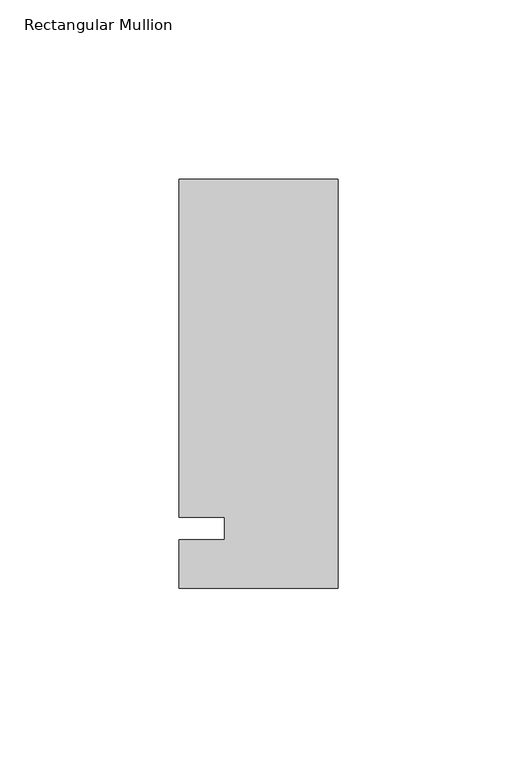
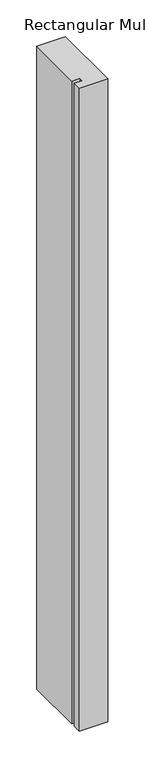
"""IFC4 building model written with IfcOpenShell, lengths in millimetres: member geometry, Rectangular Mullion : Kawneer-TRIFAB_VG_450_BACK_SB_Head."""

from ifc_helpers import new_model, si_unit, frame, origin, place, context, project, spatial, polyline, outline, extrude, source, transform, mapped, element, save


def rectangular_mullion_5dae8c0a(model_context):
    return source(origin(), model_context, "Body", "SweptSolid", [
        extrude(outline(polyline([(-44.45, -16.66875), (-44.45, -3.175), (-31.7482296, -3.175), (-31.7482296, 3.175), (-44.45, 3.175), (-44.45, 97.63125), (0.0, 97.63125), (0.0, -16.66875), (-44.45, -16.66875)])), frame((0.0, 0.0, -1062.3801312), z_axis=(0.0, 0.0, 1.0), x_axis=(1.0, 0.0, 0.0)), (0.0, 0.0, 1.0), 1062.3801312),
    ])


if __name__ == "__main__":
    model = new_model("IFC4")
    model_context = context("Model", 3, world=origin())
    ifc_project = project(units=[si_unit("LENGTHUNIT", "METRE", prefix="MILLI")], contexts=[model_context])
    site = spatial("IfcSite", under=ifc_project)
    building = spatial("IfcBuilding", under=site)
    placement = place(None, origin())
    rectangular_mullion_shape = rectangular_mullion_5dae8c0a(model_context)
    element("IfcMember", 1, ObjectType="Rectangular Mullion : Kawneer-TRIFAB_VG_450_BACK_SB_Head", at=placement, inside=building, context=model_context, shape_type="MappedRepresentation", body=[
        mapped(rectangular_mullion_shape, transform((0.0, 0.0, 0.0), x_axis=(1.0, 0.0, 0.0), y_axis=(0.0, 1.0, 0.0), z_axis=(0.0, 0.0, 1.0))),
    ])
    save(model, "model.ifc")
